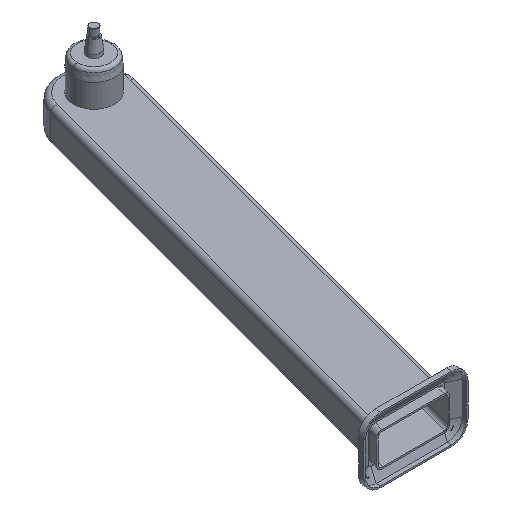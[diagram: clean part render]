
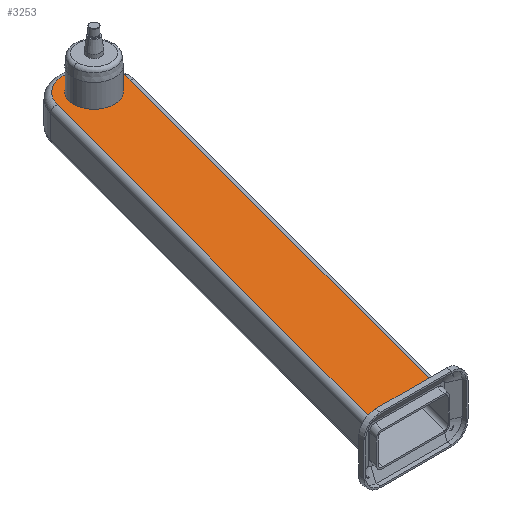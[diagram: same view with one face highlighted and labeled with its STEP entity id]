
A CAD part, isometric view. The second image highlights one B-rep face of the part: STEP entity #3253.
In plain terms, the highlighted planar face has unit normal (0, 0, 1).
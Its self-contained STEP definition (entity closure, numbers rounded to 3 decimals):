
#14 = ORIENTED_EDGE ( 'NONE', *, *, #1473, .T. ) ;
#16 = VERTEX_POINT ( 'NONE', #704 ) ;
#39 = CARTESIAN_POINT ( 'NONE',  ( 53.126, -14.235, 31.25 ) ) ;
#55 = CARTESIAN_POINT ( 'NONE',  ( 53.126, -14.235, 31.25 ) ) ;
#103 = EDGE_CURVE ( 'NONE', #16, #389, #1829, .T. ) ;
#340 = CARTESIAN_POINT ( 'NONE',  ( -265.941, -780., 31.25 ) ) ;
#365 = FACE_BOUND ( 'NONE', #2260, .T. ) ;
#389 = VERTEX_POINT ( 'NONE', #2698 ) ;
#420 = VECTOR ( 'NONE', #1857, 1000. ) ;
#473 = ORIENTED_EDGE ( 'NONE', *, *, #103, .F. ) ;
#481 = VERTEX_POINT ( 'NONE', #1753 ) ;
#523 = CARTESIAN_POINT ( 'NONE',  ( 0., 0., 31.25 ) ) ;
#561 = AXIS2_PLACEMENT_3D ( 'NONE', #523, #1532, #3286 ) ;
#691 = LINE ( 'NONE', #2677, #3291 ) ;
#698 = AXIS2_PLACEMENT_3D ( 'NONE', #2283, #776, #2535 ) ;
#704 = CARTESIAN_POINT ( 'NONE',  ( 38., 0., 31.25 ) ) ;
#724 = EDGE_LOOP ( 'NONE', ( #2958, #1218, #2409, #14, #2100 ) ) ;
#776 = DIRECTION ( 'NONE',  ( 0., 0., 1. ) ) ;
#855 = VERTEX_POINT ( 'NONE', #3170 ) ;
#857 = DIRECTION ( 'NONE',  ( 1., 0., 0. ) ) ;
#870 = DIRECTION ( 'NONE',  ( 1., 0., 0. ) ) ;
#878 = AXIS2_PLACEMENT_3D ( 'NONE', #2749, #1249, #3004 ) ;
#927 = CARTESIAN_POINT ( 'NONE',  ( 0., 0., 31.25 ) ) ;
#972 = DIRECTION ( 'NONE',  ( 0., 0., 1. ) ) ;
#1025 = CARTESIAN_POINT ( 'NONE',  ( 0., 0., 31.25 ) ) ;
#1080 = VERTEX_POINT ( 'NONE', #1771 ) ;
#1129 = EDGE_CURVE ( 'NONE', #389, #16, #1290, .T. ) ;
#1176 = DIRECTION ( 'NONE',  ( -0.259, -0.966, 0. ) ) ;
#1218 = ORIENTED_EDGE ( 'NONE', *, *, #2248, .T. ) ;
#1249 = DIRECTION ( 'NONE',  ( 0., 0., 1. ) ) ;
#1275 = PLANE ( 'NONE',  #561 ) ;
#1284 = DIRECTION ( 'NONE',  ( 1., 0., 0. ) ) ;
#1290 = CIRCLE ( 'NONE', #2581, 38. ) ;
#1304 = EDGE_CURVE ( 'NONE', #2845, #1080, #3254, .T. ) ;
#1473 = EDGE_CURVE ( 'NONE', #855, #2845, #691, .T. ) ;
#1532 = DIRECTION ( 'NONE',  ( 0., 0., 1. ) ) ;
#1619 = AXIS2_PLACEMENT_3D ( 'NONE', #927, #972, #857 ) ;
#1632 = CARTESIAN_POINT ( 'NONE',  ( 0., -780., 31.25 ) ) ;
#1642 = EDGE_CURVE ( 'NONE', #481, #855, #2891, .T. ) ;
#1715 = FACE_OUTER_BOUND ( 'NONE', #724, .T. ) ;
#1753 = CARTESIAN_POINT ( 'NONE',  ( 55., 0., 31.25 ) ) ;
#1771 = CARTESIAN_POINT ( 'NONE',  ( -152.06, -780., 31.25 ) ) ;
#1817 = EDGE_CURVE ( 'NONE', #1080, #2369, #1916, .T. ) ;
#1829 = CIRCLE ( 'NONE', #1619, 38. ) ;
#1857 = DIRECTION ( 'NONE',  ( 0.259, 0.966, 0. ) ) ;
#1916 = LINE ( 'NONE', #55, #420 ) ;
#2100 = ORIENTED_EDGE ( 'NONE', *, *, #1304, .T. ) ;
#2248 = EDGE_CURVE ( 'NONE', #2369, #481, #2643, .T. ) ;
#2260 = EDGE_LOOP ( 'NONE', ( #473, #3087 ) ) ;
#2283 = CARTESIAN_POINT ( 'NONE',  ( 0., 0., 31.25 ) ) ;
#2369 = VERTEX_POINT ( 'NONE', #39 ) ;
#2409 = ORIENTED_EDGE ( 'NONE', *, *, #1642, .T. ) ;
#2535 = DIRECTION ( 'NONE',  ( 1., 0., 0. ) ) ;
#2576 = VECTOR ( 'NONE', #870, 1000. ) ;
#2581 = AXIS2_PLACEMENT_3D ( 'NONE', #1025, #2787, #1284 ) ;
#2643 = CIRCLE ( 'NONE', #698, 55. ) ;
#2677 = CARTESIAN_POINT ( 'NONE',  ( -271.993, -802.588, 31.25 ) ) ;
#2698 = CARTESIAN_POINT ( 'NONE',  ( -38., 0., 31.25 ) ) ;
#2749 = CARTESIAN_POINT ( 'NONE',  ( 0., 0., 31.25 ) ) ;
#2787 = DIRECTION ( 'NONE',  ( 0., 0., 1. ) ) ;
#2845 = VERTEX_POINT ( 'NONE', #340 ) ;
#2891 = CIRCLE ( 'NONE', #878, 55. ) ;
#2958 = ORIENTED_EDGE ( 'NONE', *, *, #1817, .T. ) ;
#3004 = DIRECTION ( 'NONE',  ( 1., 0., 0. ) ) ;
#3087 = ORIENTED_EDGE ( 'NONE', *, *, #1129, .F. ) ;
#3170 = CARTESIAN_POINT ( 'NONE',  ( -53.126, 14.235, 31.25 ) ) ;
#3253 = ADVANCED_FACE ( 'NONE', ( #1715, #365 ), #1275, .T. ) ;
#3254 = LINE ( 'NONE', #1632, #2576 ) ;
#3286 = DIRECTION ( 'NONE',  ( 1., 0., 0. ) ) ;
#3291 = VECTOR ( 'NONE', #1176, 1000. ) ;
